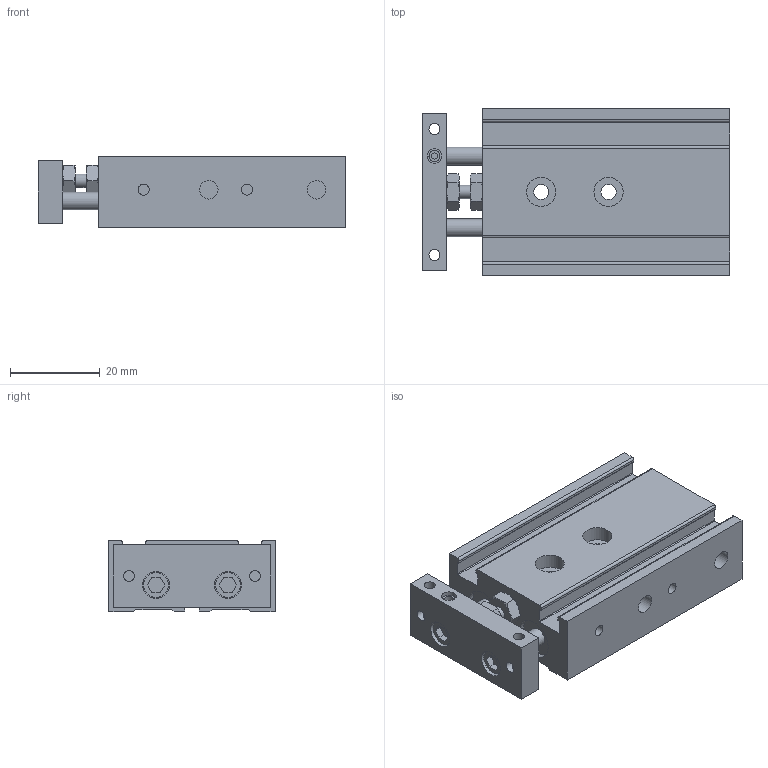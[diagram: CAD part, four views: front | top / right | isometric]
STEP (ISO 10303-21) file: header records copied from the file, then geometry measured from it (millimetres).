
FILE_DESCRIPTION( ( 'STEP AP214' ), '1' );
FILE_NAME( 'C:/Users/EMC02301/Desktop/EXS图纸/EXSM6X10-S.stp', '2026-09-02T12:31:15', ( 'License CC BY-ND 4.0' ), ( 'CADENAS' ), ' ', 'PARTsolutions', ' ' );
FILE_SCHEMA( ( 'AUTOMOTIVE_DESIGN { 1 0 10303 214 1 1 1 1 }' ) );
Length unit declared in the file: millimetre
Products named in the file (4): EXSM6X10-S-0(); _EXSM6X10-S0-dummy(); _EXSM6X10-S-body(); _EXSM6X10-S-rod
Assembly tree (3 placements, depth 2):
  EXSM6X10-S-0()
    _EXSM6X10-S0-dummy()
    _EXSM6X10-S-body()
    _EXSM6X10-S-rod
Bounding box: 68.5 x 37 x 16 mm (x, y, z)
Volume: 29012.4 mm3; surface area: 15345.7 mm2
Topology: 2 solids, 2 shells, 201 faces, 457 edges, 297 vertices
Faces by surface type: plane 112, cylinder 65, cone 24
Full cylindrical faces by diameter (mm): 2.459 x13, 3 x3, 3.3 x1, 3.4 x2, 4 x4, 4.134 x4, 5.5 x2, 6 x6, 6.5 x2, 9 x4
Entity records: 7406 total; most frequent: CARTESIAN_POINT 1308, DIRECTION 920, ORIENTED_EDGE 824, EDGE_CURVE 412, AXIS2_PLACEMENT_3D 355, EDGE_LOOP 296, VERTEX_POINT 294, FACE_OUTER_BOUND 242
